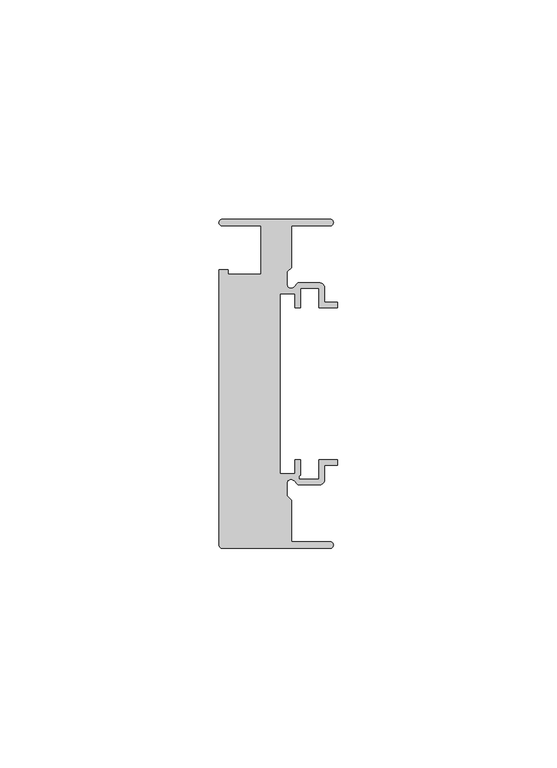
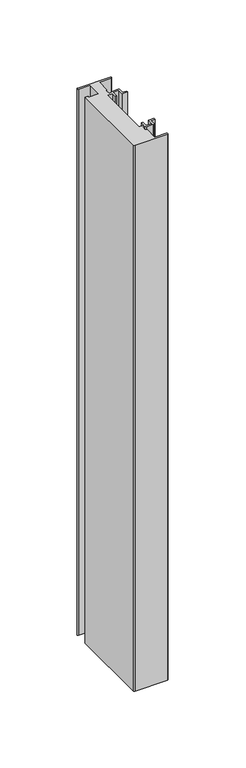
"""IFC4 building model written with IfcOpenShell, lengths in millimetres: member geometry, Прямоугольный импост : 5-AMG-1-Профиль 26Х75 Верх П."""

import ifcopenshell
import ifcopenshell.guid

model = None  # the IFC model being written
_history = None  # IfcOwnerHistory: only IFC2X3 demands one
_inside = {}  # id of a spatial element -> (the spatial element, [elements in it])
_under = {}  # id of a project, library or spatial element -> (it, [spatial elements below it])
_declared = {}  # id of a project -> (the project, [libraries it declares])
_typed = {}  # id of a type object -> (the type object, [elements of that type])
_made_of = {}  # id of a material, layer set ... -> (it, [elements and type objects made of it])


def new_model(schema):
    """Start an empty IFC model of exactly this schema.

    Asked for "IFC4X3", IfcOpenShell would pick the latest addendum, in which some entities
    have other attributes; the version numbers below select the first issue.
    IFC2X3 requires an IfcOwnerHistory on every rooted entity: one is made here for all.
    """
    global model, _history
    if schema == "IFC4X3":
        model = ifcopenshell.file(schema_version=(4, 3, 0, 0))
    else:
        model = ifcopenshell.file(schema=schema)
    _inside.clear()
    _under.clear()
    _declared.clear()
    _typed.clear()
    _made_of.clear()
    _history = None
    if model.schema == "IFC2X3":
        org = make("IfcOrganization", Name="unknown")
        user = make(
            "IfcPersonAndOrganization",
            ThePerson=make("IfcPerson", FamilyName="unknown"),
            TheOrganization=org,
        )
        app = make(
            "IfcApplication",
            ApplicationDeveloper=org,
            Version="unknown",
            ApplicationFullName="unknown",
            ApplicationIdentifier="unknown",
        )
        _history = make(
            "IfcOwnerHistory",
            OwningUser=user,
            OwningApplication=app,
            ChangeAction="ADDED",
            CreationDate=0,
        )
    return model


def make(cls, **values):
    """One entity of the class cls with the attributes given. An attribute that is None is left unset."""
    return model.create_entity(
        cls, **{name: value for name, value in values.items() if value is not None}
    )


def rooted(cls, **values):
    """An entity with a GlobalId (a new one), such as an element, a storey or a relation."""
    return make(cls, GlobalId=ifcopenshell.guid.new(), OwnerHistory=_history, **values)


def si_unit(unit_type, name, prefix=None):
    """IfcSIUnit, for example si_unit("LENGTHUNIT", "METRE", prefix="MILLI")."""
    return make("IfcSIUnit", UnitType=unit_type, Prefix=prefix, Name=name)


def assignment(units):
    """IfcUnitAssignment: the units of a project."""
    return None if units is None else make("IfcUnitAssignment", Units=units)


def point(xyz):
    """IfcCartesianPoint."""
    return None if xyz is None else make("IfcCartesianPoint", Coordinates=xyz)


def direction(xyz):
    """IfcDirection."""
    return None if xyz is None else make("IfcDirection", DirectionRatios=xyz)


def frame(location, z_axis=None, x_axis=None):
    """IfcAxis2Placement3D, a coordinate frame: its origin and axes. An axis left out is left unset."""
    return make(
        "IfcAxis2Placement3D",
        Location=point(location),
        Axis=direction(z_axis),
        RefDirection=direction(x_axis),
    )


def frame_2d(location, x_axis=None):
    """IfcAxis2Placement2D, a coordinate frame in the plane: its origin and x axis."""
    return make(
        "IfcAxis2Placement2D", Location=point(location), RefDirection=direction(x_axis)
    )


def origin():
    """The frame at (0, 0, 0) with its axes left unset."""
    return frame((0.0, 0.0, 0.0))


def place(relative_to, where):
    """IfcLocalPlacement: puts the frame where relative to a parent placement (None: the world)."""
    return make(
        "IfcLocalPlacement", PlacementRelTo=relative_to, RelativePlacement=where
    )


def context(
    kind, dimensions, precision=None, world=None, true_north=None, identifier=None
):
    """IfcGeometricRepresentationContext, for example the 3D "Model" context."""
    return make(
        "IfcGeometricRepresentationContext",
        ContextIdentifier=identifier,
        ContextType=kind,
        CoordinateSpaceDimension=dimensions,
        Precision=precision,
        WorldCoordinateSystem=world,
        TrueNorth=true_north,
    )


def project(units=None, contexts=None):
    """IfcProject with its units and contexts."""
    return rooted(
        "IfcProject",
        Name="project",
        RepresentationContexts=contexts,
        UnitsInContext=assignment(units),
    )


def spatial(cls, under=None, at=None, **own):
    """A site, building, storey or space (cls), placed at a placement, below another one or the project."""
    s = rooted(cls, ObjectPlacement=at, **own)
    if under is not None:
        _under.setdefault(under.id(), (under, []))[1].append(s)
    return s


def polyline(points):
    """IfcPolyline through the points."""
    return make("IfcPolyline", Points=[point(p) for p in points])


def circle_curve(where, radius):
    """IfcCircle in the frame where."""
    return make("IfcCircle", Position=where, Radius=radius)


def trimmed(basis, trim1, trim2, sense, master):
    """IfcTrimmedCurve: the piece of a basis curve between two trims."""
    return make(
        "IfcTrimmedCurve",
        BasisCurve=basis,
        Trim1=trim1,
        Trim2=trim2,
        SenseAgreement=sense,
        MasterRepresentation=master,
    )


def segment(curve, same_sense, transition):
    """IfcCompositeCurveSegment."""
    return make(
        "IfcCompositeCurveSegment",
        Transition=transition,
        SameSense=same_sense,
        ParentCurve=curve,
    )


def composite_curve(segments, self_intersect=None):
    """IfcCompositeCurve: segments joined end to end."""
    return make("IfcCompositeCurve", Segments=segments, SelfIntersect=self_intersect)


def outline(outer, holes=None, kind="AREA"):
    """IfcArbitraryClosedProfileDef: a profile drawn as a closed curve; with holes, ...WithVoids."""
    if holes is None:
        return make("IfcArbitraryClosedProfileDef", ProfileType=kind, OuterCurve=outer)
    return make(
        "IfcArbitraryProfileDefWithVoids",
        ProfileType=kind,
        OuterCurve=outer,
        InnerCurves=holes,
    )


def extrude(swept, where, along, depth):
    """IfcExtrudedAreaSolid: the profile swept, set in the frame where, extruded along a direction by depth."""
    return make(
        "IfcExtrudedAreaSolid",
        SweptArea=swept,
        Position=where,
        ExtrudedDirection=direction(along),
        Depth=depth,
    )


def shape(context_of_items, identifier, shape_type, items):
    """IfcShapeRepresentation: the items that make up one representation, for example the "Body"."""
    return make(
        "IfcShapeRepresentation",
        ContextOfItems=context_of_items,
        RepresentationIdentifier=identifier,
        RepresentationType=shape_type,
        Items=items,
    )


def source(mapping_origin, context_of_items, identifier, shape_type, items):
    """IfcRepresentationMap: a shape defined once, which mapped items show again and again."""
    return make(
        "IfcRepresentationMap",
        MappingOrigin=mapping_origin,
        MappedRepresentation=shape(context_of_items, identifier, shape_type, items),
    )


def transform(
    local_origin,
    x_axis=None,
    y_axis=None,
    z_axis=None,
    scale=None,
    scale2=None,
    scale3=None,
    uniform=True,
):
    """IfcCartesianTransformationOperator3D, or its non-uniform kind. x_axis, y_axis, z_axis: its Axis1, 2, 3."""
    if uniform:
        return make(
            "IfcCartesianTransformationOperator3D",
            Axis1=direction(x_axis),
            Axis2=direction(y_axis),
            LocalOrigin=point(local_origin),
            Scale=scale,
            Axis3=direction(z_axis),
        )
    return make(
        "IfcCartesianTransformationOperator3DnonUniform",
        Axis1=direction(x_axis),
        Axis2=direction(y_axis),
        LocalOrigin=point(local_origin),
        Scale=scale,
        Axis3=direction(z_axis),
        Scale2=scale2,
        Scale3=scale3,
    )


def mapped(mapping_source, mapping_target):
    """IfcMappedItem: shows the shape of a source again, moved by a transform."""
    return make(
        "IfcMappedItem", MappingSource=mapping_source, MappingTarget=mapping_target
    )


def made_of(thing, what):
    """Note that an element or type object is made of a material, layer set ...; save() writes the relation."""
    if what is not None:
        _made_of.setdefault(what.id(), (what, []))[1].append(thing)
    return thing


def element(
    cls,
    number,
    at=None,
    inside=None,
    cuts=None,
    type_object=None,
    material=None,
    context=None,
    identifier="Body",
    shape_type=None,
    held_by="IfcProductDefinitionShape",
    body=None,
    shapes=None,
    **own,
):
    """One element of the class cls, such as IfcWall. Its Tag is "e" and its number.

    at: its placement. inside: the storey or other place that contains it. cuts: it is an
    opening in that element (IfcRelVoidsElement). A single representation is given by context,
    identifier, shape_type and body (its items); several are given by shapes. held_by: the class
    of the entity that holds the representations. save() writes the other relations.
    """
    e = rooted(cls, Tag="e%d" % number, ObjectPlacement=at, **own)
    if body is not None:
        shapes = [shape(context, identifier, shape_type, body)]
    if shapes is not None:
        e.Representation = make(held_by, Representations=shapes)
    if inside is not None:
        _inside.setdefault(inside.id(), (inside, []))[1].append(e)
    if cuts is not None:
        rooted(
            "IfcRelVoidsElement", RelatingBuildingElement=cuts, RelatedOpeningElement=e
        )
    if type_object is not None:
        _typed.setdefault(type_object.id(), (type_object, []))[1].append(e)
    return made_of(e, material)


def aggregate(whole, parts):
    """IfcRelAggregates: a whole, such as a stair, and the parts it consists of."""
    return rooted("IfcRelAggregates", RelatingObject=whole, RelatedObjects=parts)


def save(model, path):
    """Write the relations noted so far, then the file.

    IfcRelAggregates (storeys below a building ...), IfcRelContainedInSpatialStructure (elements
    in a storey), IfcRelDefinesByType, IfcRelAssociatesMaterial and IfcRelDeclares: one each for
    every whole, place, type object, material and project.
    """
    for whole, parts in _under.values():
        aggregate(whole, parts)
    for where, things in _inside.values():
        rooted(
            "IfcRelContainedInSpatialStructure",
            RelatedElements=things,
            RelatingStructure=where,
        )
    for kind, things in _typed.values():
        rooted("IfcRelDefinesByType", RelatedObjects=things, RelatingType=kind)
    for what, things in _made_of.values():
        rooted("IfcRelAssociatesMaterial", RelatedObjects=things, RelatingMaterial=what)
    for by, libraries in _declared.values():
        rooted("IfcRelDeclares", RelatingContext=by, RelatedDefinitions=libraries)
    model.write(path)


def member_950eede1(model_context):
    return source(origin(), model_context, "Body", "SweptSolid", [
        extrude(outline(composite_curve([segment(trimmed(circle_curve(frame_2d((-1.7, 36.75)), 0.75), [point((-1.7, 37.5))], [point((-1.7, 36.0))], False, "CARTESIAN"), True, "CONTINUOUS"), segment(polyline([(-1.7, 36.0), (-10.5, 36.0), (-10.5, 26.5029437), (-11.5, 25.5029437), (-11.5, 22.6727922)]), True, "CONTINUOUS"), segment(trimmed(circle_curve(frame_2d((-10.6, 22.6727922)), 0.9), [point((-11.5, 22.6727922))], [point((-9.9636039, 22.0363961))], True, "CARTESIAN"), True, "CONTINUOUS"), segment(polyline([(-9.9636039, 22.0363961), (-9.0, 23.0), (-4.0, 23.0)]), True, "CONTINUOUS"), segment(trimmed(circle_curve(frame_2d((-4.0, 22.0)), 1.0), [point((-4.0, 23.0))], [point((-3.0, 22.0))], False, "CARTESIAN"), True, "CONTINUOUS"), segment(polyline([(-3.0, 22.0), (-3.0, 18.55), (0.0, 18.55), (0.0, 17.35), (-4.2, 17.35), (-4.2, 21.8), (-8.45, 21.8), (-8.45, 17.35), (-9.65, 17.35), (-9.65, 20.55), (-13.15, 20.55), (-13.15, -20.55), (-9.65, -20.55), (-9.65, -17.35), (-8.45, -17.35), (-8.45, -20.8470563)]), True, "CONTINUOUS"), segment(trimmed(circle_curve(frame_2d((-8.3343131, -21.3314262)), 0.4979937), [point((-8.45, -20.8470563))], [point((-8.5029437, -21.8))], True, "CARTESIAN"), True, "CONTINUOUS"), segment(polyline([(-8.5029437, -21.8), (-4.2, -21.8), (-4.2, -17.35), (0.0, -17.35), (0.0, -18.55), (-3.0, -18.55), (-3.0, -22.0)]), True, "CONTINUOUS"), segment(trimmed(circle_curve(frame_2d((-4.0, -22.0)), 1.0), [point((-3.0, -22.0))], [point((-4.0, -23.0))], False, "CARTESIAN"), True, "CONTINUOUS"), segment(polyline([(-4.0, -23.0), (-9.0, -23.0), (-9.9636039, -22.0363961)]), True, "CONTINUOUS"), segment(trimmed(circle_curve(frame_2d((-10.6, -22.6727922)), 0.9), [point((-9.9636039, -22.0363961))], [point((-11.5, -22.6727922))], True, "CARTESIAN"), True, "CONTINUOUS"), segment(polyline([(-11.5, -22.6727922), (-11.5, -25.5029437), (-10.5, -26.5029437), (-10.5, -36.0), (-1.7, -36.0)]), True, "CONTINUOUS"), segment(trimmed(circle_curve(frame_2d((-1.7, -36.75)), 0.75), [point((-1.7, -36.0))], [point((-1.7, -37.5))], False, "CARTESIAN"), True, "CONTINUOUS"), segment(polyline([(-1.7, -37.5), (-26.25, -37.5)]), True, "CONTINUOUS"), segment(trimmed(circle_curve(frame_2d((-26.2240507, -36.7244847)), 0.7759493), [point((-26.25, -37.5))], [point((-27.0, -36.7244847))], False, "CARTESIAN"), True, "CONTINUOUS"), segment(polyline([(-27.0, -36.7244847), (-27.0, 26.0), (-24.9359877, 26.0), (-24.9359877, 25.0), (-17.5, 25.0), (-17.5, 36.0), (-26.25, 36.0)]), True, "CONTINUOUS"), segment(trimmed(circle_curve(frame_2d((-26.25, 36.75)), 0.75), [point((-26.25, 36.0))], [point((-26.25, 37.5))], False, "CARTESIAN"), True, "CONTINUOUS"), segment(polyline([(-26.25, 37.5), (-1.7, 37.5)]), True, "CONTINUOUS")], self_intersect=False)), frame((0.0, 0.0, -435.0), z_axis=(0.0, 0.0, 1.0), x_axis=(1.0, 0.0, 0.0)), (0.0, 0.0, 1.0), 435.0),
    ])


if __name__ == "__main__":
    model = new_model("IFC4")
    model_context = context("Model", 3, world=origin())
    ifc_project = project(units=[si_unit("LENGTHUNIT", "METRE", prefix="MILLI")], contexts=[model_context])
    site = spatial("IfcSite", under=ifc_project)
    building = spatial("IfcBuilding", under=site)
    placement = place(None, origin())
    member_shape = member_950eede1(model_context)
    element("IfcMember", 1, ObjectType="Прямоугольный импост : 5-AMG-1-Профиль 26Х75 Верх П", at=placement, inside=building, context=model_context, shape_type="MappedRepresentation", body=[
        mapped(member_shape, transform((0.0, 0.0, 0.0), x_axis=(1.0, 0.0, 0.0), y_axis=(0.0, 1.0, 0.0), z_axis=(0.0, 0.0, 1.0))),
    ])
    save(model, "model.ifc")
